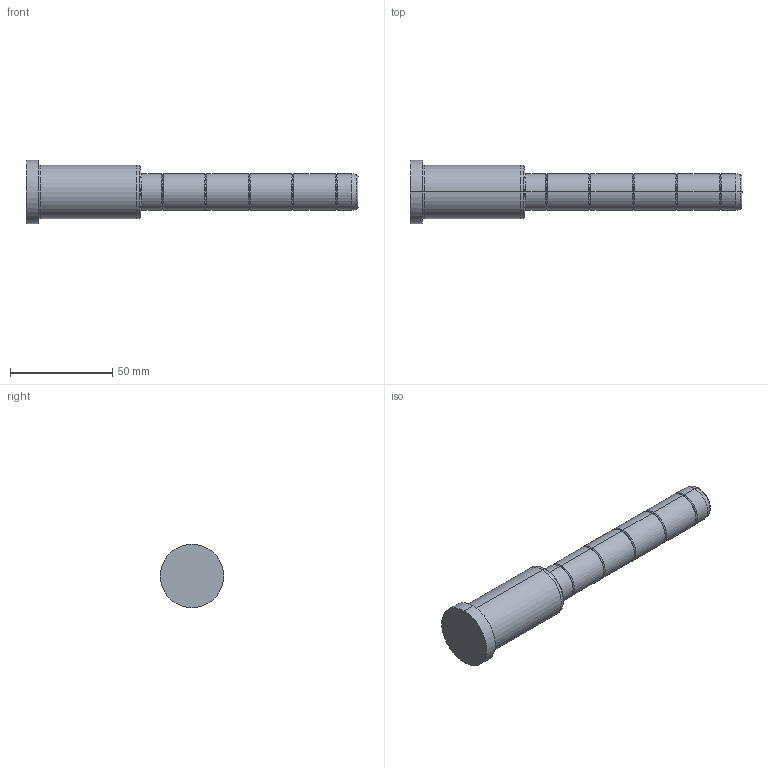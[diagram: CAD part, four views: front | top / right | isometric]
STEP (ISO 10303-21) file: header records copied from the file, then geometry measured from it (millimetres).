
FILE_DESCRIPTION( ( 'STEP AP203' ), '1' );
FILE_NAME( 'C:/Projects/D02 - 18x56x106.step', '2003-01-04T13:31:12', ( ' ' ), ( ' ' ), 'XStep 1.0', ' ', ' ' );
FILE_SCHEMA( ( 'CONFIG_CONTROL_DESIGN' ) );
Length unit declared in the file: metre
Products named in the file (1): 1
Bounding box: 162 x 31 x 31 mm (x, y, z)
Volume: 57899.9 mm3; surface area: 12228.9 mm2
Topology: 1 solids, 1 shells, 54 faces, 106 edges, 58 vertices
Faces by surface type: bspline 30, revolution 24
Entity records: 1721 total; most frequent: CARTESIAN_POINT 717, ORIENTED_EDGE 212, DIRECTION 166, EDGE_CURVE 106, AXIS2_PLACEMENT_3D 59, EDGE_LOOP 58, VERTEX_POINT 58, CIRCLE 58
